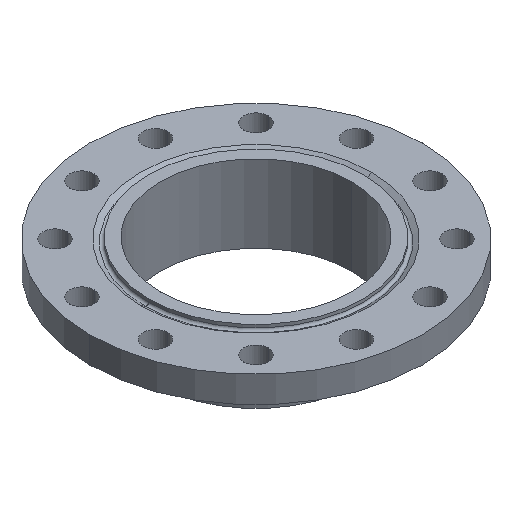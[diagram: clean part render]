
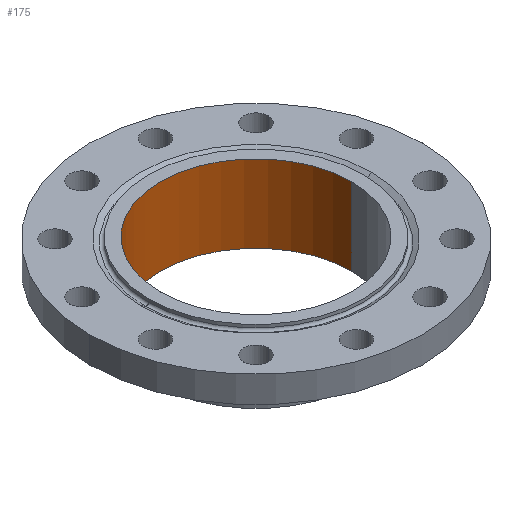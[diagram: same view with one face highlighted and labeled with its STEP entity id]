
A CAD part, isometric view. The second image highlights one B-rep face of the part: STEP entity #175.
In plain terms, the highlighted cylindrical face has radius 129.4 mm (diameter 258.8 mm), a partial arc.
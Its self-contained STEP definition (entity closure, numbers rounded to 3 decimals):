
#56 = AXIS2_PLACEMENT_3D ( 'NONE', #322, #321, #320 ) ;
#175 = ADVANCED_FACE ( 'NONE', ( #778 ), #777, .F. ) ;
#315 = DIRECTION ( 'NONE',  ( -1., 0., 0. ) ) ;
#316 = DIRECTION ( 'NONE',  ( 0., 0., -1. ) ) ;
#319 = CARTESIAN_POINT ( 'NONE',  ( 0., 0., -105. ) ) ;
#320 = DIRECTION ( 'NONE',  ( -1., 0., 0. ) ) ;
#321 = DIRECTION ( 'NONE',  ( 0., 0., -1. ) ) ;
#322 = CARTESIAN_POINT ( 'NONE',  ( 0., 0., 0. ) ) ;
#385 = CARTESIAN_POINT ( 'NONE',  ( 129.4, 0., -105. ) ) ;
#413 = DIRECTION ( 'NONE',  ( 0., 0., -1. ) ) ;
#414 = CARTESIAN_POINT ( 'NONE',  ( 129.4, 0., -115. ) ) ;
#415 = LINE ( 'NONE', #414, #1139 ) ;
#506 = AXIS2_PLACEMENT_3D ( 'NONE', #775, #774, #773 ) ;
#511 = DIRECTION ( 'NONE',  ( 0., 0., -1. ) ) ;
#512 = CARTESIAN_POINT ( 'NONE',  ( -129.4, 0., -115. ) ) ;
#513 = LINE ( 'NONE', #512, #968 ) ;
#537 = EDGE_CURVE ( 'NONE', #1486, #1458, #513, .T. ) ;
#773 = DIRECTION ( 'NONE',  ( -1., 0., 0. ) ) ;
#774 = DIRECTION ( 'NONE',  ( 0., 0., -1. ) ) ;
#775 = CARTESIAN_POINT ( 'NONE',  ( 0., 0., -115. ) ) ;
#777 = CYLINDRICAL_SURFACE ( 'NONE', #506, 129.4 ) ;
#778 = FACE_OUTER_BOUND ( 'NONE', #1452, .T. ) ;
#816 = EDGE_CURVE ( 'NONE', #1453, #865, #415, .T. ) ;
#865 = VERTEX_POINT ( 'NONE', #385 ) ;
#968 = VECTOR ( 'NONE', #511, 1000. ) ;
#974 = EDGE_CURVE ( 'NONE', #1486, #1453, #1396, .T. ) ;
#979 = EDGE_CURVE ( 'NONE', #1458, #865, #1377, .T. ) ;
#1139 = VECTOR ( 'NONE', #413, 1000. ) ;
#1243 = ORIENTED_EDGE ( 'NONE', *, *, #816, .F. ) ;
#1246 = ORIENTED_EDGE ( 'NONE', *, *, #974, .F. ) ;
#1247 = ORIENTED_EDGE ( 'NONE', *, *, #537, .T. ) ;
#1248 = ORIENTED_EDGE ( 'NONE', *, *, #979, .T. ) ;
#1249 = CARTESIAN_POINT ( 'NONE',  ( -129.4, 0., 0. ) ) ;
#1308 = CARTESIAN_POINT ( 'NONE',  ( -129.4, 0., -105. ) ) ;
#1316 = CARTESIAN_POINT ( 'NONE',  ( 129.4, 0., 0. ) ) ;
#1360 = AXIS2_PLACEMENT_3D ( 'NONE', #319, #316, #315 ) ;
#1377 = CIRCLE ( 'NONE', #1360, 129.4 ) ;
#1396 = CIRCLE ( 'NONE', #56, 129.4 ) ;
#1452 = EDGE_LOOP ( 'NONE', ( #1243, #1246, #1247, #1248 ) ) ;
#1453 = VERTEX_POINT ( 'NONE', #1316 ) ;
#1458 = VERTEX_POINT ( 'NONE', #1308 ) ;
#1486 = VERTEX_POINT ( 'NONE', #1249 ) ;
